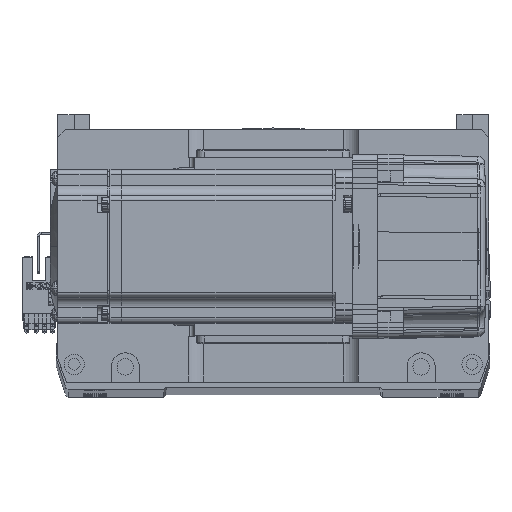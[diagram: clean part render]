
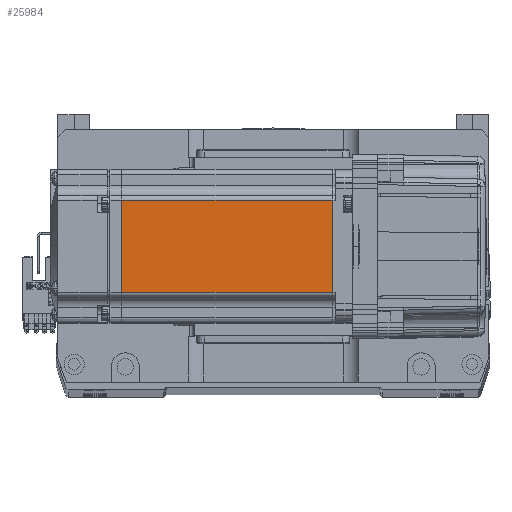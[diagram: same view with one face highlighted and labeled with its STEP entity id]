
A CAD part, top view. The second image highlights one B-rep face of the part: STEP entity #25984.
In plain terms, the highlighted planar face has unit normal (0, 0, 1).
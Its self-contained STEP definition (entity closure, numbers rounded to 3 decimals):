
#2025 = VECTOR ( 'NONE', #40641, 1000. ) ;
#3153 = CARTESIAN_POINT ( 'NONE',  ( -7.75, 0., 30. ) ) ;
#3164 = CARTESIAN_POINT ( 'NONE',  ( -90.45, 18., 30. ) ) ;
#3593 = DIRECTION ( 'NONE',  ( 0., -1., 0. ) ) ;
#6327 = DIRECTION ( 'NONE',  ( -1., 0., 0. ) ) ;
#6851 = CARTESIAN_POINT ( 'NONE',  ( -6.5, -18., 30. ) ) ;
#7498 = DIRECTION ( 'NONE',  ( -1., 0., 0. ) ) ;
#9926 = PLANE ( 'NONE',  #42903 ) ;
#10147 = EDGE_CURVE ( 'NONE', #54550, #22409, #17614, .T. ) ;
#11176 = CARTESIAN_POINT ( 'NONE',  ( -6.5, 18., 30. ) ) ;
#12140 = VERTEX_POINT ( 'NONE', #3164 ) ;
#17351 = ORIENTED_EDGE ( 'NONE', *, *, #10147, .F. ) ;
#17614 = LINE ( 'NONE', #6851, #29626 ) ;
#19972 = DIRECTION ( 'NONE',  ( 1., 0., 0. ) ) ;
#21000 = ORIENTED_EDGE ( 'NONE', *, *, #49300, .F. ) ;
#22409 = VERTEX_POINT ( 'NONE', #23727 ) ;
#22531 = VERTEX_POINT ( 'NONE', #32189 ) ;
#23727 = CARTESIAN_POINT ( 'NONE',  ( -90.45, -18., 30. ) ) ;
#25984 = ADVANCED_FACE ( 'NONE', ( #45447 ), #9926, .T. ) ;
#27606 = EDGE_CURVE ( 'NONE', #12140, #22409, #42825, .T. ) ;
#28472 = ORIENTED_EDGE ( 'NONE', *, *, #27606, .T. ) ;
#29626 = VECTOR ( 'NONE', #7498, 1000. ) ;
#31907 = LINE ( 'NONE', #11176, #41538 ) ;
#32189 = CARTESIAN_POINT ( 'NONE',  ( -7.75, 18., 30. ) ) ;
#40641 = DIRECTION ( 'NONE',  ( 0., -1., 0. ) ) ;
#41538 = VECTOR ( 'NONE', #6327, 1000. ) ;
#42825 = LINE ( 'NONE', #66044, #2025 ) ;
#42903 = AXIS2_PLACEMENT_3D ( 'NONE', #56026, #50666, #19972 ) ;
#45447 = FACE_OUTER_BOUND ( 'NONE', #50567, .T. ) ;
#46365 = ORIENTED_EDGE ( 'NONE', *, *, #61278, .T. ) ;
#49300 = EDGE_CURVE ( 'NONE', #22531, #54550, #64174, .T. ) ;
#50567 = EDGE_LOOP ( 'NONE', ( #21000, #46365, #28472, #17351 ) ) ;
#50666 = DIRECTION ( 'NONE',  ( 0., 0., 1. ) ) ;
#51469 = VECTOR ( 'NONE', #3593, 1000. ) ;
#54550 = VERTEX_POINT ( 'NONE', #64044 ) ;
#56026 = CARTESIAN_POINT ( 'NONE',  ( -6.5, -25., 30. ) ) ;
#61278 = EDGE_CURVE ( 'NONE', #22531, #12140, #31907, .T. ) ;
#64044 = CARTESIAN_POINT ( 'NONE',  ( -7.75, -18., 30. ) ) ;
#64174 = LINE ( 'NONE', #3153, #51469 ) ;
#66044 = CARTESIAN_POINT ( 'NONE',  ( -90.45, 0., 30. ) ) ;
